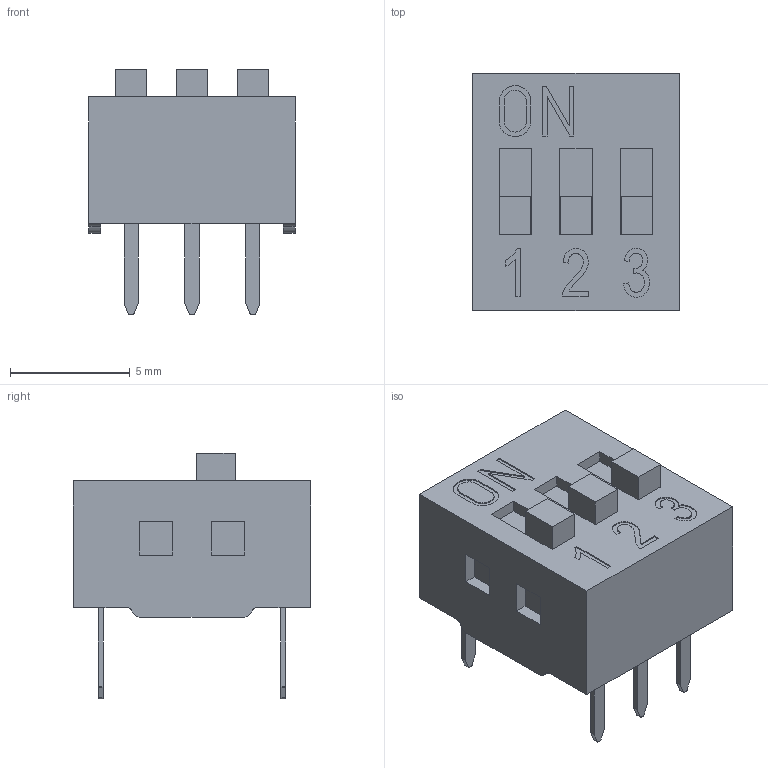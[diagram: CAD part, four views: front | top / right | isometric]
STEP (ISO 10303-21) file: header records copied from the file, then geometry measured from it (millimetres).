
FILE_DESCRIPTION(('FreeCAD Model'),'2;1');
FILE_NAME('C:/Users/Metaltex-99/Desktop/DS-03.stp','2020-08-11T08:43:36' ,('Engenharia Metaltex'),('Metaltex'), 'Open CASCADE STEP processor 7.3','FreeCAD','Unknown');
FILE_SCHEMA(('AUTOMOTIVE_DESIGN { 1 0 10303 214 1 1 1 1 }'));
Length unit declared in the file: millimetre
Products named in the file (1): DS-03
Bounding box: 8.62 x 9.9 x 10.25 mm (x, y, z)
Surface area: 1057.4 mm2 (no closed solid volume)
Topology: 0 solids, 11 shells, 271 faces, 702 edges, 468 vertices
Faces by surface type: plane 204, bspline 35, cylinder 32
Entity records: 17729 total; most frequent: CARTESIAN_POINT 3863, DIRECTION 2378, LINE 1768, VECTOR 1768, ORIENTED_EDGE 1404, PCURVE 1404, DEFINITIONAL_REPRESENTATION 1404, EDGE_CURVE 702
